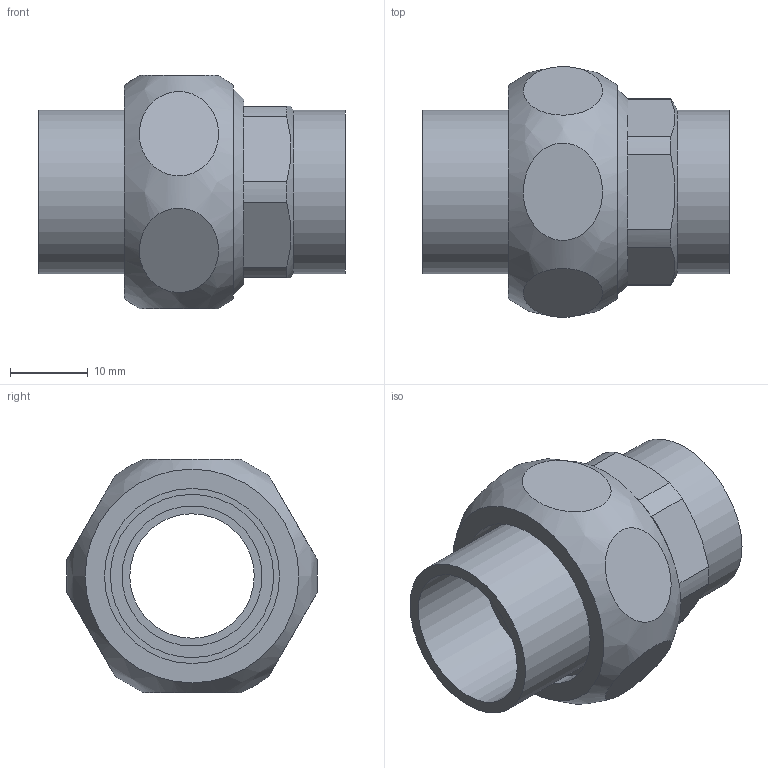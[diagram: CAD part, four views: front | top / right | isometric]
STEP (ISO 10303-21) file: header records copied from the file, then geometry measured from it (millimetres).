
FILE_DESCRIPTION(/* description */ (''),/* implementation_level */ '2;1');
FILE_NAME(/* name */ '\\LG50011\SANHA_Legnica\Engineering\Public\RYSUNKI\SANHA POLSKA\4330\inventor\14330_18(2).stp',/* time_stamp */ '2019-03-12T13:01:06+01:00',/* author */ ('gomulka'),/* organization */ (''),/* preprocessor_version */ 'ST-DEVELOPER v17',/* originating_system */ 'Autodesk Inventor 2019',/* authorisation */ '');
FILE_SCHEMA (('AUTOMOTIVE_DESIGN { 1 0 10303 214 3 1 1 }'));
Length unit declared in the file: millimetre
Products named in the file (5): 14330_18(2); 14374_34(2); 1DCU34; 14370_18-34(2); 14372_18-34(1)
Assembly tree (4 placements, depth 2):
  14330_18(2)
    14374_34(2)
    1DCU34
    14370_18-34(2)
    14372_18-34(1)
Bounding box: 39.37 x 32.23 x 30 mm (x, y, z)
Volume: 10172.9 mm3; surface area: 9134.3 mm2
Topology: 4 solids, 4 shells, 53 faces, 135 edges, 99 vertices
Faces by surface type: plane 30, cylinder 18, cone 4, bspline 1
Full cylindrical faces by diameter (mm): 16 x1, 17 x2, 18 x2, 21 x2, 22.5 x1, 23 x1, 23.5 x1, 24.117 x1, 26.441 x1
Entity records: 2219 total; most frequent: CARTESIAN_POINT 705, DIRECTION 304, ORIENTED_EDGE 270, EDGE_CURVE 135, AXIS2_PLACEMENT_3D 135, VERTEX_POINT 99, CIRCLE 74, EDGE_LOOP 70
